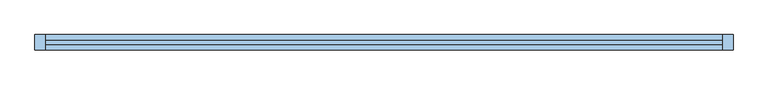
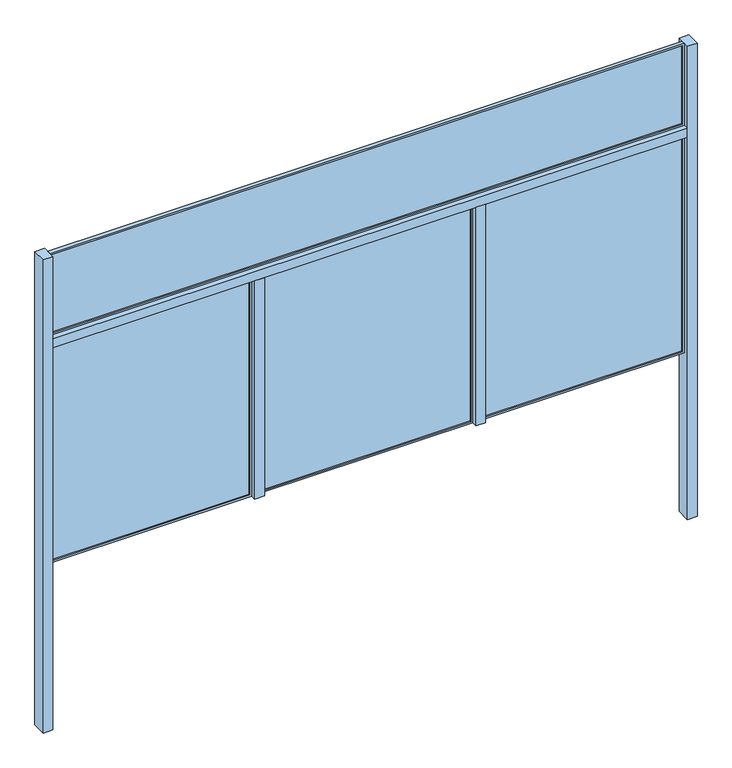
"""IFC4 building model written with IfcOpenShell, lengths in millimetres: window geometry, A6 Divisor laboratorios 3 paños : A6.1 Divisor laboratorios 340x260 parante intermedio desde mesada."""

from ifc_helpers import new_model, si_unit, frame, origin, origin_with_axes, place, context, project, spatial, polyline, outline, extrude, source, transform, mapped, element, save


def window_4282aa82(model_context):
    return source(origin(), model_context, "Body", "SweptSolid", [
        extrude(outline(polyline([(-1650.0, -162.5), (-1700.0, -162.5), (-1700.0, -87.5), (-1650.0, -87.5), (-1650.0, -162.5)])), origin_with_axes(), (0.0, 0.0, 1.0), 2600.0),
        extrude(outline(polyline([(-550.0, -162.5), (-600.0, -162.5), (-600.0, -87.5), (-550.0, -87.5), (-550.0, -162.5)])), frame((0.0, 0.0, 900.0), z_axis=(0.0, 0.0, 1.0), x_axis=(1.0, 0.0, 0.0)), (0.0, 0.0, 1.0), 1200.0),
        extrude(outline(polyline([(1700.0, -162.5), (1650.0, -162.5), (1650.0, -87.5), (1700.0, -87.5), (1700.0, -162.5)])), origin_with_axes(), (0.0, 0.0, 1.0), 2600.0),
        extrude(outline(polyline([(600.0, -162.5), (550.0, -162.5), (550.0, -87.5), (600.0, -87.5), (600.0, -162.5)])), frame((0.0, 0.0, 900.0), z_axis=(0.0, 0.0, 1.0), x_axis=(1.0, 0.0, 0.0)), (0.0, 0.0, 1.0), 1200.0),
        extrude(outline(polyline([(-610.0, -128.0), (-1640.0, -128.0), (-1640.0, -122.0), (-610.0, -122.0), (-610.0, -128.0)])), frame((0.0, 0.0, 910.0), z_axis=(0.0, 0.0, 1.0), x_axis=(1.0, 0.0, 0.0)), (0.0, 0.0, 1.0), 1180.0),
        extrude(outline(polyline([(1640.0, -128.0), (-1640.0, -128.0), (-1640.0, -122.0), (1640.0, -122.0), (1640.0, -128.0)])), frame((0.0, 0.0, 2160.0), z_axis=(0.0, 0.0, 1.0), x_axis=(1.0, 0.0, 0.0)), (0.0, 0.0, 1.0), 430.0),
        extrude(outline(polyline([(540.0, -128.0), (-540.0, -128.0), (-540.0, -122.0), (540.0, -122.0), (540.0, -128.0)])), frame((0.0, 0.0, 910.0), z_axis=(0.0, 0.0, 1.0), x_axis=(1.0, 0.0, 0.0)), (0.0, 0.0, 1.0), 1180.0),
        extrude(outline(polyline([(1640.0, -128.0), (610.0, -128.0), (610.0, -122.0), (1640.0, -122.0), (1640.0, -128.0)])), frame((0.0, 0.0, 910.0), z_axis=(0.0, 0.0, 1.0), x_axis=(1.0, 0.0, 0.0)), (0.0, 0.0, 1.0), 1180.0),
        extrude(outline(polyline([(2100.0, -600.0), (2100.0, -1650.0), (900.0, -1650.0), (900.0, -600.0), (2100.0, -600.0)]), holes=[polyline([(2090.0, -610.0), (910.0, -610.0), (910.0, -1640.0), (2090.0, -1640.0), (2090.0, -610.0)])]), frame((0.0, -135.0, 0.0), z_axis=(0.0, 1.0, 0.0), x_axis=(0.0, 0.0, 1.0)), (0.0, 0.0, 1.0), 20.0),
        extrude(outline(polyline([(2600.0, 1650.0), (2600.0, -1650.0), (2150.0, -1650.0), (2150.0, 1650.0), (2600.0, 1650.0)]), holes=[polyline([(2590.0, 1640.0), (2160.0, 1640.0), (2160.0, -1640.0), (2590.0, -1640.0), (2590.0, 1640.0)])]), frame((0.0, -135.0, 0.0), z_axis=(0.0, 1.0, 0.0), x_axis=(0.0, 0.0, 1.0)), (0.0, 0.0, 1.0), 20.0),
        extrude(outline(polyline([(2100.0, 550.0), (2100.0, -550.0), (900.0, -550.0), (900.0, 550.0), (2100.0, 550.0)]), holes=[polyline([(2090.0, 540.0), (910.0, 540.0), (910.0, -540.0), (2090.0, -540.0), (2090.0, 540.0)])]), frame((0.0, -135.0, 0.0), z_axis=(0.0, 1.0, 0.0), x_axis=(0.0, 0.0, 1.0)), (0.0, 0.0, 1.0), 20.0),
        extrude(outline(polyline([(2100.0, 1650.0), (2100.0, 600.0), (900.0, 600.0), (900.0, 1650.0), (2100.0, 1650.0)]), holes=[polyline([(2090.0, 1640.0), (910.0, 1640.0), (910.0, 610.0), (2090.0, 610.0), (2090.0, 1640.0)])]), frame((0.0, -135.0, 0.0), z_axis=(0.0, 1.0, 0.0), x_axis=(0.0, 0.0, 1.0)), (0.0, 0.0, 1.0), 20.0),
        extrude(outline(polyline([(1650.0, -162.5), (-1650.0, -162.5), (-1650.0, -87.5), (1650.0, -87.5), (1650.0, -162.5)])), frame((0.0, 0.0, 2100.0), z_axis=(0.0, 0.0, 1.0), x_axis=(1.0, 0.0, 0.0)), (0.0, 0.0, 1.0), 50.0),
    ])


if __name__ == "__main__":
    model = new_model("IFC4")
    model_context = context("Model", 3, world=origin())
    ifc_project = project(units=[si_unit("LENGTHUNIT", "METRE", prefix="MILLI")], contexts=[model_context])
    site = spatial("IfcSite", under=ifc_project)
    building = spatial("IfcBuilding", under=site)
    placement = place(None, origin())
    window_shape = window_4282aa82(model_context)
    element("IfcWindow", 1, ObjectType="A6 Divisor laboratorios 3 paños : A6.1 Divisor laboratorios 340x260 parante intermedio desde mesada", at=placement, inside=building, context=model_context, shape_type="MappedRepresentation", body=[
        mapped(window_shape, transform((0.0, 0.0, 0.0), x_axis=(1.0, 0.0, 0.0), y_axis=(0.0, 1.0, 0.0), z_axis=(0.0, 0.0, 1.0))),
    ])
    save(model, "model.ifc")
